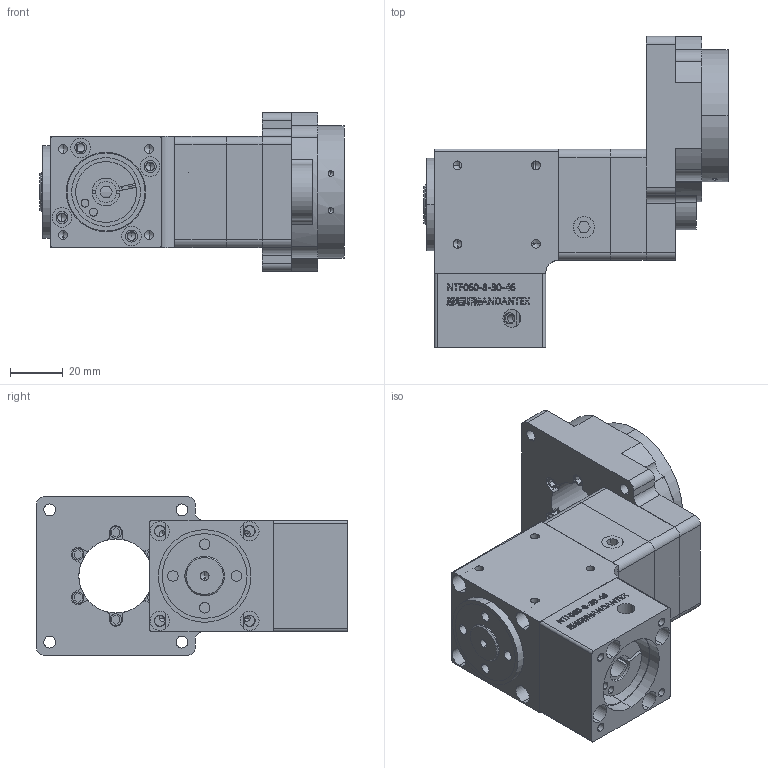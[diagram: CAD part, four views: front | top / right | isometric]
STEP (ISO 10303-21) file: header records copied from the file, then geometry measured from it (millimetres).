
FILE_DESCRIPTION (( 'STEP AP203' ), '1' );
FILE_NAME ('NTF060-M2-8-30-46.STEP', '2025-05-10T02:48:41', ( 'Windows User' ), ( 'P R C' ), 'SwSTEP 2.0', 'SolidWorks 2016', '' );
FILE_SCHEMA (( 'CONFIG_CONTROL_DESIGN' ));
Length unit declared in the file: millimetre
Products named in the file (12): 输入轴; NTF060-M2-8-30-46; 蹟譫; 蹟譫ㄗ2ㄘ; 標杶ㄗ1ㄘ; 綴楊擘ㄗ侂狟100Wㄘ; 6001_Rolling bearings 6001 GB 276-94; 6002_Rolling bearings 6002 GB 276-94; 褲极; 61902_Rolling bearings 61902 GB 276-94; 怀堤粣ㄗ等粣ㄘ; NTF60-05-M1耀倰(M3饜侜督-8-24 30-3 4-3.5-45)
Assembly tree (11 placements, depth 2):
  NTF060-M2-8-30-46
    褲极
    怀堤粣ㄗ等粣ㄘ
    输入轴
    蹟譫
    蹟譫ㄗ2ㄘ
    標杶ㄗ1ㄘ
    綴楊擘ㄗ侂狟100Wㄘ
    6001_Rolling bearings 6001 GB 276-94
    6002_Rolling bearings 6002 GB 276-94
    61902_Rolling bearings 61902 GB 276-94
    NTF60-05-M1耀倰(M3饜侜督-8-24 30-3 4-3.5-45)
Bounding box: 115 x 117.6 x 60 mm (x, y, z)
Volume: 231500.3 mm3; surface area: 94220.4 mm2
Topology: 13 solids, 19 shells, 1579 faces, 4668 edges, 3022 vertices
Faces by surface type: plane 624, cylinder 419, torus 177, bspline 154, cone 107, sphere 98
Entity records: 62769 total; most frequent: CARTESIAN_POINT 22240, ORIENTED_EDGE 8688, DIRECTION 7444, EDGE_CURVE 4344, VERTEX_POINT 2875, AXIS2_PLACEMENT_3D 2728, VECTOR 1988, LINE 1988
